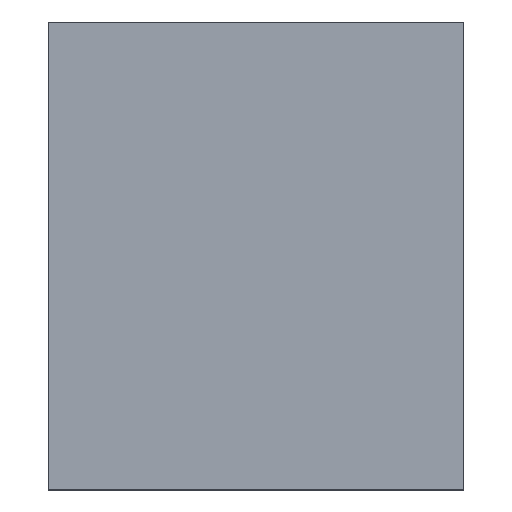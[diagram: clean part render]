
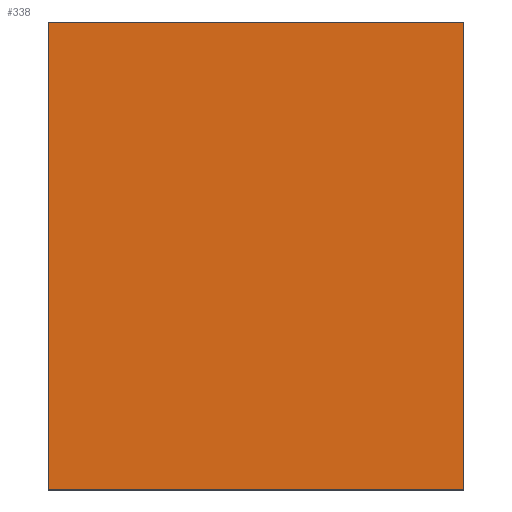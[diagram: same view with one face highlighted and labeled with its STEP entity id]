
A CAD part, top view. The second image highlights one B-rep face of the part: STEP entity #338.
In plain terms, the highlighted planar face has unit normal (0, 0, 1).
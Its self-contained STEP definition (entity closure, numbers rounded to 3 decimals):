
#24 = VERTEX_POINT('',#25);
#25 = CARTESIAN_POINT('',(0.,0.,0.826));
#32 = PLANE('',#33);
#33 = AXIS2_PLACEMENT_3D('',#34,#35,#36);
#34 = CARTESIAN_POINT('',(0.,0.,0.));
#35 = DIRECTION('',(1.,0.,0.));
#36 = DIRECTION('',(0.,0.,1.));
#44 = PLANE('',#45);
#45 = AXIS2_PLACEMENT_3D('',#46,#47,#48);
#46 = CARTESIAN_POINT('',(0.,0.,0.));
#47 = DIRECTION('',(0.,1.,0.));
#48 = DIRECTION('',(0.,0.,1.));
#85 = VERTEX_POINT('',#86);
#86 = CARTESIAN_POINT('',(0.,27.,0.826));
#100 = PLANE('',#101);
#101 = AXIS2_PLACEMENT_3D('',#102,#103,#104);
#102 = CARTESIAN_POINT('',(0.,27.,0.));
#103 = DIRECTION('',(0.,1.,0.));
#104 = DIRECTION('',(0.,0.,1.));
#112 = EDGE_CURVE('',#24,#85,#113,.T.);
#113 = SURFACE_CURVE('',#114,(#118,#125),.PCURVE_S1.);
#114 = LINE('',#115,#116);
#115 = CARTESIAN_POINT('',(0.,0.,0.826));
#116 = VECTOR('',#117,1.);
#117 = DIRECTION('',(0.,1.,0.));
#118 = PCURVE('',#32,#119);
#119 = DEFINITIONAL_REPRESENTATION('',(#120),#124);
#120 = LINE('',#121,#122);
#121 = CARTESIAN_POINT('',(0.826,0.));
#122 = VECTOR('',#123,1.);
#123 = DIRECTION('',(0.,-1.));
#124 = ( GEOMETRIC_REPRESENTATION_CONTEXT(2) 
PARAMETRIC_REPRESENTATION_CONTEXT() REPRESENTATION_CONTEXT('2D SPACE',''
  ) );
#125 = PCURVE('',#126,#131);
#126 = PLANE('',#127);
#127 = AXIS2_PLACEMENT_3D('',#128,#129,#130);
#128 = CARTESIAN_POINT('',(0.,0.,0.826));
#129 = DIRECTION('',(0.,0.,1.));
#130 = DIRECTION('',(1.,0.,0.));
#131 = DEFINITIONAL_REPRESENTATION('',(#132),#136);
#132 = LINE('',#133,#134);
#133 = CARTESIAN_POINT('',(0.,0.));
#134 = VECTOR('',#135,1.);
#135 = DIRECTION('',(0.,1.));
#136 = ( GEOMETRIC_REPRESENTATION_CONTEXT(2) 
PARAMETRIC_REPRESENTATION_CONTEXT() REPRESENTATION_CONTEXT('2D SPACE',''
  ) );
#144 = VERTEX_POINT('',#145);
#145 = CARTESIAN_POINT('',(24.,0.,0.826));
#152 = PLANE('',#153);
#153 = AXIS2_PLACEMENT_3D('',#154,#155,#156);
#154 = CARTESIAN_POINT('',(24.,0.,0.));
#155 = DIRECTION('',(1.,0.,0.));
#156 = DIRECTION('',(0.,0.,1.));
#195 = VERTEX_POINT('',#196);
#196 = CARTESIAN_POINT('',(24.,27.,0.826));
#217 = EDGE_CURVE('',#144,#195,#218,.T.);
#218 = SURFACE_CURVE('',#219,(#223,#230),.PCURVE_S1.);
#219 = LINE('',#220,#221);
#220 = CARTESIAN_POINT('',(24.,0.,0.826));
#221 = VECTOR('',#222,1.);
#222 = DIRECTION('',(0.,1.,0.));
#223 = PCURVE('',#152,#224);
#224 = DEFINITIONAL_REPRESENTATION('',(#225),#229);
#225 = LINE('',#226,#227);
#226 = CARTESIAN_POINT('',(0.826,0.));
#227 = VECTOR('',#228,1.);
#228 = DIRECTION('',(0.,-1.));
#229 = ( GEOMETRIC_REPRESENTATION_CONTEXT(2) 
PARAMETRIC_REPRESENTATION_CONTEXT() REPRESENTATION_CONTEXT('2D SPACE',''
  ) );
#230 = PCURVE('',#126,#231);
#231 = DEFINITIONAL_REPRESENTATION('',(#232),#236);
#232 = LINE('',#233,#234);
#233 = CARTESIAN_POINT('',(24.,0.));
#234 = VECTOR('',#235,1.);
#235 = DIRECTION('',(0.,1.));
#236 = ( GEOMETRIC_REPRESENTATION_CONTEXT(2) 
PARAMETRIC_REPRESENTATION_CONTEXT() REPRESENTATION_CONTEXT('2D SPACE',''
  ) );
#263 = EDGE_CURVE('',#24,#144,#264,.T.);
#264 = SURFACE_CURVE('',#265,(#269,#276),.PCURVE_S1.);
#265 = LINE('',#266,#267);
#266 = CARTESIAN_POINT('',(0.,0.,0.826));
#267 = VECTOR('',#268,1.);
#268 = DIRECTION('',(1.,0.,0.));
#269 = PCURVE('',#44,#270);
#270 = DEFINITIONAL_REPRESENTATION('',(#271),#275);
#271 = LINE('',#272,#273);
#272 = CARTESIAN_POINT('',(0.826,0.));
#273 = VECTOR('',#274,1.);
#274 = DIRECTION('',(0.,1.));
#275 = ( GEOMETRIC_REPRESENTATION_CONTEXT(2) 
PARAMETRIC_REPRESENTATION_CONTEXT() REPRESENTATION_CONTEXT('2D SPACE',''
  ) );
#276 = PCURVE('',#126,#277);
#277 = DEFINITIONAL_REPRESENTATION('',(#278),#282);
#278 = LINE('',#279,#280);
#279 = CARTESIAN_POINT('',(0.,0.));
#280 = VECTOR('',#281,1.);
#281 = DIRECTION('',(1.,0.));
#282 = ( GEOMETRIC_REPRESENTATION_CONTEXT(2) 
PARAMETRIC_REPRESENTATION_CONTEXT() REPRESENTATION_CONTEXT('2D SPACE',''
  ) );
#310 = EDGE_CURVE('',#85,#195,#311,.T.);
#311 = SURFACE_CURVE('',#312,(#316,#323),.PCURVE_S1.);
#312 = LINE('',#313,#314);
#313 = CARTESIAN_POINT('',(0.,27.,0.826));
#314 = VECTOR('',#315,1.);
#315 = DIRECTION('',(1.,0.,0.));
#316 = PCURVE('',#100,#317);
#317 = DEFINITIONAL_REPRESENTATION('',(#318),#322);
#318 = LINE('',#319,#320);
#319 = CARTESIAN_POINT('',(0.826,0.));
#320 = VECTOR('',#321,1.);
#321 = DIRECTION('',(0.,1.));
#322 = ( GEOMETRIC_REPRESENTATION_CONTEXT(2) 
PARAMETRIC_REPRESENTATION_CONTEXT() REPRESENTATION_CONTEXT('2D SPACE',''
  ) );
#323 = PCURVE('',#126,#324);
#324 = DEFINITIONAL_REPRESENTATION('',(#325),#329);
#325 = LINE('',#326,#327);
#326 = CARTESIAN_POINT('',(0.,27.));
#327 = VECTOR('',#328,1.);
#328 = DIRECTION('',(1.,0.));
#329 = ( GEOMETRIC_REPRESENTATION_CONTEXT(2) 
PARAMETRIC_REPRESENTATION_CONTEXT() REPRESENTATION_CONTEXT('2D SPACE',''
  ) );
#338 = ADVANCED_FACE('',(#339),#126,.T.);
#339 = FACE_BOUND('',#340,.T.);
#340 = EDGE_LOOP('',(#341,#342,#343,#344));
#341 = ORIENTED_EDGE('',*,*,#112,.F.);
#342 = ORIENTED_EDGE('',*,*,#263,.T.);
#343 = ORIENTED_EDGE('',*,*,#217,.T.);
#344 = ORIENTED_EDGE('',*,*,#310,.F.);
